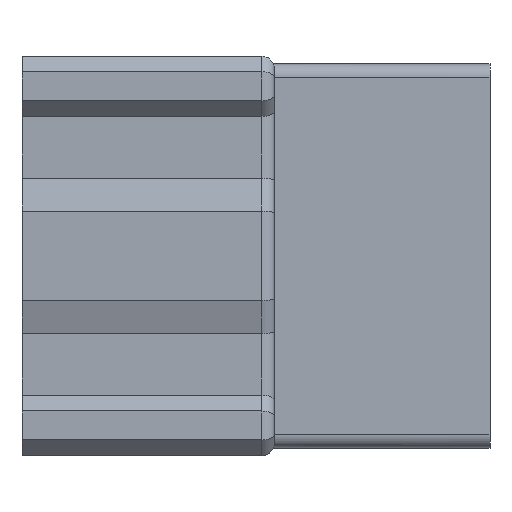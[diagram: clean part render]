
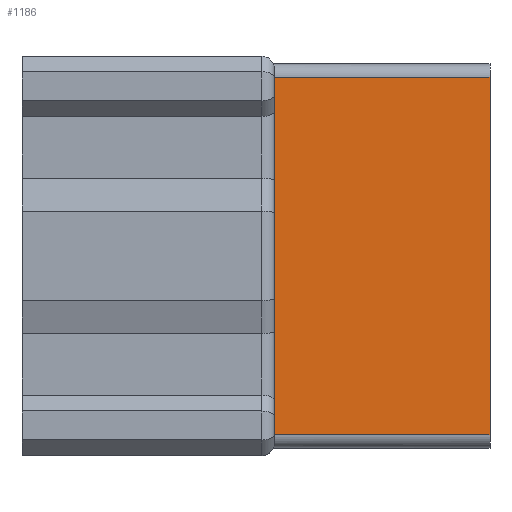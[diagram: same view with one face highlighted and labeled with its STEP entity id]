
A CAD part, top view. The second image highlights one B-rep face of the part: STEP entity #1186.
In plain terms, the highlighted planar face has unit normal (0, 0, 1).
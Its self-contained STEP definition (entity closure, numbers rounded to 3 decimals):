
#704=CARTESIAN_POINT('Vertex',(1.2,-13.6,5.7)) ;
#707=CARTESIAN_POINT('Line Origine',(1.2,0.,5.7)) ;
#711=CARTESIAN_POINT('Vertex',(1.2,13.6,5.7)) ;
#1156=CARTESIAN_POINT('Axis2P3D Location',(17.6,0.,5.7)) ;
#1161=CARTESIAN_POINT('Line Origine',(9.4,13.6,5.7)) ;
#1165=CARTESIAN_POINT('Vertex',(17.6,13.6,5.7)) ;
#1168=CARTESIAN_POINT('Line Origine',(9.4,-13.6,5.7)) ;
#1172=CARTESIAN_POINT('Vertex',(17.6,-13.6,5.7)) ;
#1175=CARTESIAN_POINT('Line Origine',(17.6,0.,5.7)) ;
#708=DIRECTION('Vector Direction',(0.,-1.,0.)) ;
#1157=DIRECTION('Axis2P3D Direction',(-0.,-0.,-1.)) ;
#1158=DIRECTION('Axis2P3D XDirection',(0.,-1.,0.)) ;
#1162=DIRECTION('Vector Direction',(-1.,0.,0.)) ;
#1169=DIRECTION('Vector Direction',(-1.,0.,0.)) ;
#1176=DIRECTION('Vector Direction',(0.,-1.,0.)) ;
#1159=AXIS2_PLACEMENT_3D('Plane Axis2P3D',#1156,#1157,#1158) ;
#1181=ORIENTED_EDGE('',*,*,#1167,.T.) ;
#1182=ORIENTED_EDGE('',*,*,#713,.F.) ;
#1183=ORIENTED_EDGE('',*,*,#1174,.F.) ;
#1184=ORIENTED_EDGE('',*,*,#1179,.T.) ;
#709=VECTOR('Line Direction',#708,1.) ;
#1163=VECTOR('Line Direction',#1162,1.) ;
#1170=VECTOR('Line Direction',#1169,1.) ;
#1177=VECTOR('Line Direction',#1176,1.) ;
#1186=ADVANCED_FACE('BODY',(#1185),#1160,.F.) ;
#713=EDGE_CURVE('',#705,#712,#710,.F.) ;
#1167=EDGE_CURVE('',#1166,#712,#1164,.T.) ;
#1174=EDGE_CURVE('',#1173,#705,#1171,.T.) ;
#1179=EDGE_CURVE('',#1173,#1166,#1178,.F.) ;
#1180=EDGE_LOOP('',(#1181,#1182,#1183,#1184)) ;
#1185=FACE_OUTER_BOUND('',#1180,.T.) ;
#710=LINE('Line',#707,#709) ;
#1164=LINE('Line',#1161,#1163) ;
#1171=LINE('Line',#1168,#1170) ;
#1178=LINE('Line',#1175,#1177) ;
#1160=PLANE('',#1159) ;
#705=VERTEX_POINT('',#704) ;
#712=VERTEX_POINT('',#711) ;
#1166=VERTEX_POINT('',#1165) ;
#1173=VERTEX_POINT('',#1172) ;
